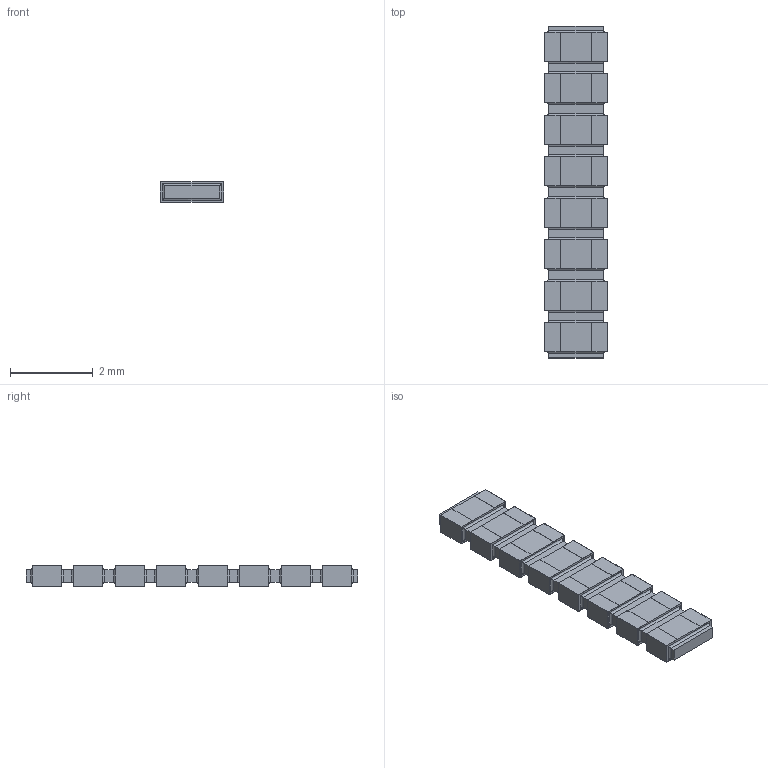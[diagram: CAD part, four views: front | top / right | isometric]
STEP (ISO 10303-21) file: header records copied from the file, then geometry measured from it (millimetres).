
FILE_DESCRIPTION(/* description */ (''),/* implementation_level */ '2;1');
FILE_NAME(/* name */ 'S:\DOCUMENT\AUTOCAD\3D_Modèles\10_3D-pour-VISHAY-COM\PRA\PRA100\PRA100-I2_à_I8\20_STEP\PRA100I8_B-or-N-or-G.stp',/* time_stamp */ '2017-12-18T09:17:37+01:00',/* author */ ('dparmentier'),/* organization */ ('unknown'),/* preprocessor_version */ 'ST-DEVELOPER v17',/* originating_system */ 'Autodesk Inventor 2018',/* authorisation */ '');
FILE_SCHEMA (('AUTOMOTIVE_DESIGN { 1 0 10303 214 3 1 1 }'));
Length unit declared in the file: millimetre
Products named in the file (1): PRA100I8_B-or-N-or-G
Bounding box: 1.52 x 8 x 0.5 mm (x, y, z)
Volume: 5.2 mm3; surface area: 63.7 mm2
Topology: 17 solids, 17 shells, 310 faces, 716 edges, 456 vertices
Faces by surface type: plane 246, cylinder 64
Entity records: 8609 total; most frequent: CARTESIAN_POINT 1483, ORIENTED_EDGE 1432, DIRECTION 1402, EDGE_CURVE 716, LINE 652, VECTOR 652, VERTEX_POINT 456, AXIS2_PLACEMENT_3D 375
